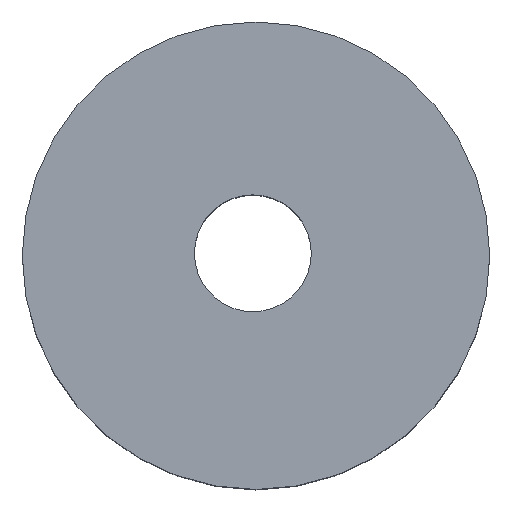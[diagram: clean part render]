
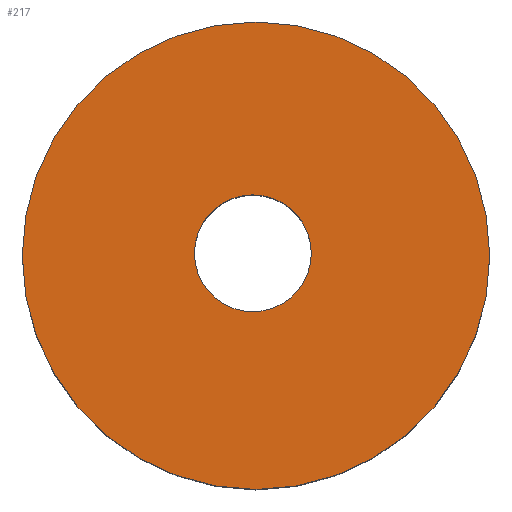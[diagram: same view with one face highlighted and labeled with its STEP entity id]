
A CAD part, top view. The second image highlights one B-rep face of the part: STEP entity #217.
In plain terms, the highlighted planar face has unit normal (0, 0, 1).
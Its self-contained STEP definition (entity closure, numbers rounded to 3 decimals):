
#1 = AXIS2_PLACEMENT_3D ( 'NONE', #220, #79, #177 ) ;
#5 = EDGE_LOOP ( 'NONE', ( #27, #94 ) ) ;
#9 = DIRECTION ( 'NONE',  ( 0., 0., 1. ) ) ;
#27 = ORIENTED_EDGE ( 'NONE', *, *, #106, .T. ) ;
#29 = DIRECTION ( 'NONE',  ( 0., 0., 1. ) ) ;
#44 = CARTESIAN_POINT ( 'NONE',  ( 0.359, -0.269, 50. ) ) ;
#48 = CARTESIAN_POINT ( 'NONE',  ( -10.179, 0.151, 50. ) ) ;
#49 = DIRECTION ( 'NONE',  ( 0., 0., 1. ) ) ;
#59 = VERTEX_POINT ( 'NONE', #82 ) ;
#61 = VERTEX_POINT ( 'NONE', #97 ) ;
#69 = EDGE_LOOP ( 'NONE', ( #113, #171 ) ) ;
#71 = CIRCLE ( 'NONE', #196, 10. ) ;
#72 = VERTEX_POINT ( 'NONE', #77 ) ;
#77 = CARTESIAN_POINT ( 'NONE',  ( -39.641, -0.269, 50. ) ) ;
#78 = DIRECTION ( 'NONE',  ( 1., 0., 0. ) ) ;
#79 = DIRECTION ( 'NONE',  ( 0., 0., 1. ) ) ;
#82 = CARTESIAN_POINT ( 'NONE',  ( 40.359, -0.269, 50. ) ) ;
#83 = FACE_OUTER_BOUND ( 'NONE', #5, .T. ) ;
#87 = DIRECTION ( 'NONE',  ( 0., 0., 1. ) ) ;
#88 = AXIS2_PLACEMENT_3D ( 'NONE', #109, #87, #168 ) ;
#94 = ORIENTED_EDGE ( 'NONE', *, *, #138, .T. ) ;
#97 = CARTESIAN_POINT ( 'NONE',  ( 9.821, 0.151, 50. ) ) ;
#99 = CIRCLE ( 'NONE', #88, 10. ) ;
#104 = CARTESIAN_POINT ( 'NONE',  ( 0.359, -0.269, 50. ) ) ;
#106 = EDGE_CURVE ( 'NONE', #72, #59, #152, .T. ) ;
#109 = CARTESIAN_POINT ( 'NONE',  ( -0.179, 0.151, 50. ) ) ;
#113 = ORIENTED_EDGE ( 'NONE', *, *, #123, .F. ) ;
#123 = EDGE_CURVE ( 'NONE', #61, #173, #71, .T. ) ;
#124 = CARTESIAN_POINT ( 'NONE',  ( -0.179, 0.151, 50. ) ) ;
#132 = PLANE ( 'NONE',  #238 ) ;
#138 = EDGE_CURVE ( 'NONE', #59, #72, #169, .T. ) ;
#139 = DIRECTION ( 'NONE',  ( 1., 0., 0. ) ) ;
#152 = CIRCLE ( 'NONE', #1, 40. ) ;
#162 = AXIS2_PLACEMENT_3D ( 'NONE', #44, #9, #78 ) ;
#168 = DIRECTION ( 'NONE',  ( 1., 0., 0. ) ) ;
#169 = CIRCLE ( 'NONE', #162, 40. ) ;
#171 = ORIENTED_EDGE ( 'NONE', *, *, #198, .F. ) ;
#173 = VERTEX_POINT ( 'NONE', #48 ) ;
#177 = DIRECTION ( 'NONE',  ( 1., 0., 0. ) ) ;
#196 = AXIS2_PLACEMENT_3D ( 'NONE', #124, #29, #139 ) ;
#198 = EDGE_CURVE ( 'NONE', #173, #61, #99, .T. ) ;
#206 = DIRECTION ( 'NONE',  ( 1., 0., 0. ) ) ;
#208 = FACE_BOUND ( 'NONE', #69, .T. ) ;
#217 = ADVANCED_FACE ( 'NONE', ( #208, #83 ), #132, .T. ) ;
#220 = CARTESIAN_POINT ( 'NONE',  ( 0.359, -0.269, 50. ) ) ;
#238 = AXIS2_PLACEMENT_3D ( 'NONE', #104, #49, #206 ) ;
